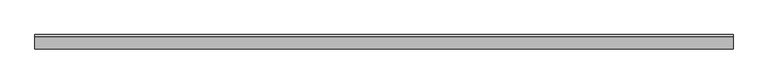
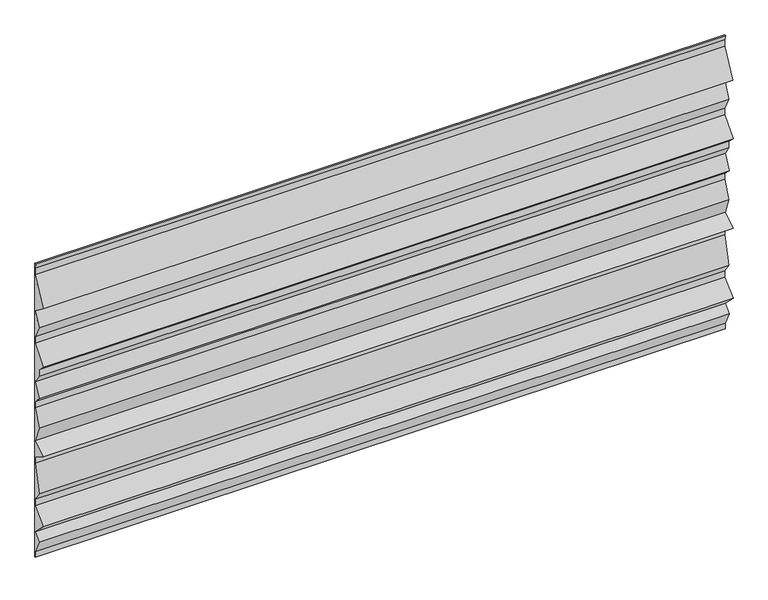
"""IFC4 building model written with IfcOpenShell, lengths in millimetres: plate geometry, ATELIERS 3S_GLACE PISSAILLAS 1000_HORIZONTAL : AZURO."""

import ifcopenshell
import ifcopenshell.guid

model = None  # the IFC model being written
_history = None  # IfcOwnerHistory: only IFC2X3 demands one
_inside = {}  # id of a spatial element -> (the spatial element, [elements in it])
_under = {}  # id of a project, library or spatial element -> (it, [spatial elements below it])
_declared = {}  # id of a project -> (the project, [libraries it declares])
_typed = {}  # id of a type object -> (the type object, [elements of that type])
_made_of = {}  # id of a material, layer set ... -> (it, [elements and type objects made of it])


def new_model(schema):
    """Start an empty IFC model of exactly this schema.

    Asked for "IFC4X3", IfcOpenShell would pick the latest addendum, in which some entities
    have other attributes; the version numbers below select the first issue.
    IFC2X3 requires an IfcOwnerHistory on every rooted entity: one is made here for all.
    """
    global model, _history
    if schema == "IFC4X3":
        model = ifcopenshell.file(schema_version=(4, 3, 0, 0))
    else:
        model = ifcopenshell.file(schema=schema)
    _inside.clear()
    _under.clear()
    _declared.clear()
    _typed.clear()
    _made_of.clear()
    _history = None
    if model.schema == "IFC2X3":
        org = make("IfcOrganization", Name="unknown")
        user = make(
            "IfcPersonAndOrganization",
            ThePerson=make("IfcPerson", FamilyName="unknown"),
            TheOrganization=org,
        )
        app = make(
            "IfcApplication",
            ApplicationDeveloper=org,
            Version="unknown",
            ApplicationFullName="unknown",
            ApplicationIdentifier="unknown",
        )
        _history = make(
            "IfcOwnerHistory",
            OwningUser=user,
            OwningApplication=app,
            ChangeAction="ADDED",
            CreationDate=0,
        )
    return model


def make(cls, **values):
    """One entity of the class cls with the attributes given. An attribute that is None is left unset."""
    return model.create_entity(
        cls, **{name: value for name, value in values.items() if value is not None}
    )


def rooted(cls, **values):
    """An entity with a GlobalId (a new one), such as an element, a storey or a relation."""
    return make(cls, GlobalId=ifcopenshell.guid.new(), OwnerHistory=_history, **values)


def si_unit(unit_type, name, prefix=None):
    """IfcSIUnit, for example si_unit("LENGTHUNIT", "METRE", prefix="MILLI")."""
    return make("IfcSIUnit", UnitType=unit_type, Prefix=prefix, Name=name)


def assignment(units):
    """IfcUnitAssignment: the units of a project."""
    return None if units is None else make("IfcUnitAssignment", Units=units)


def point(xyz):
    """IfcCartesianPoint."""
    return None if xyz is None else make("IfcCartesianPoint", Coordinates=xyz)


def direction(xyz):
    """IfcDirection."""
    return None if xyz is None else make("IfcDirection", DirectionRatios=xyz)


def frame(location, z_axis=None, x_axis=None):
    """IfcAxis2Placement3D, a coordinate frame: its origin and axes. An axis left out is left unset."""
    return make(
        "IfcAxis2Placement3D",
        Location=point(location),
        Axis=direction(z_axis),
        RefDirection=direction(x_axis),
    )


def origin():
    """The frame at (0, 0, 0) with its axes left unset."""
    return frame((0.0, 0.0, 0.0))


def place(relative_to, where):
    """IfcLocalPlacement: puts the frame where relative to a parent placement (None: the world)."""
    return make(
        "IfcLocalPlacement", PlacementRelTo=relative_to, RelativePlacement=where
    )


def context(
    kind, dimensions, precision=None, world=None, true_north=None, identifier=None
):
    """IfcGeometricRepresentationContext, for example the 3D "Model" context."""
    return make(
        "IfcGeometricRepresentationContext",
        ContextIdentifier=identifier,
        ContextType=kind,
        CoordinateSpaceDimension=dimensions,
        Precision=precision,
        WorldCoordinateSystem=world,
        TrueNorth=true_north,
    )


def project(units=None, contexts=None):
    """IfcProject with its units and contexts."""
    return rooted(
        "IfcProject",
        Name="project",
        RepresentationContexts=contexts,
        UnitsInContext=assignment(units),
    )


def spatial(cls, under=None, at=None, **own):
    """A site, building, storey or space (cls), placed at a placement, below another one or the project."""
    s = rooted(cls, ObjectPlacement=at, **own)
    if under is not None:
        _under.setdefault(under.id(), (under, []))[1].append(s)
    return s


def polyline(points):
    """IfcPolyline through the points."""
    return make("IfcPolyline", Points=[point(p) for p in points])


def outline(outer, holes=None, kind="AREA"):
    """IfcArbitraryClosedProfileDef: a profile drawn as a closed curve; with holes, ...WithVoids."""
    if holes is None:
        return make("IfcArbitraryClosedProfileDef", ProfileType=kind, OuterCurve=outer)
    return make(
        "IfcArbitraryProfileDefWithVoids",
        ProfileType=kind,
        OuterCurve=outer,
        InnerCurves=holes,
    )


def extrude(swept, where, along, depth):
    """IfcExtrudedAreaSolid: the profile swept, set in the frame where, extruded along a direction by depth."""
    return make(
        "IfcExtrudedAreaSolid",
        SweptArea=swept,
        Position=where,
        ExtrudedDirection=direction(along),
        Depth=depth,
    )


def shape(context_of_items, identifier, shape_type, items):
    """IfcShapeRepresentation: the items that make up one representation, for example the "Body"."""
    return make(
        "IfcShapeRepresentation",
        ContextOfItems=context_of_items,
        RepresentationIdentifier=identifier,
        RepresentationType=shape_type,
        Items=items,
    )


def source(mapping_origin, context_of_items, identifier, shape_type, items):
    """IfcRepresentationMap: a shape defined once, which mapped items show again and again."""
    return make(
        "IfcRepresentationMap",
        MappingOrigin=mapping_origin,
        MappedRepresentation=shape(context_of_items, identifier, shape_type, items),
    )


def transform(
    local_origin,
    x_axis=None,
    y_axis=None,
    z_axis=None,
    scale=None,
    scale2=None,
    scale3=None,
    uniform=True,
):
    """IfcCartesianTransformationOperator3D, or its non-uniform kind. x_axis, y_axis, z_axis: its Axis1, 2, 3."""
    if uniform:
        return make(
            "IfcCartesianTransformationOperator3D",
            Axis1=direction(x_axis),
            Axis2=direction(y_axis),
            LocalOrigin=point(local_origin),
            Scale=scale,
            Axis3=direction(z_axis),
        )
    return make(
        "IfcCartesianTransformationOperator3DnonUniform",
        Axis1=direction(x_axis),
        Axis2=direction(y_axis),
        LocalOrigin=point(local_origin),
        Scale=scale,
        Axis3=direction(z_axis),
        Scale2=scale2,
        Scale3=scale3,
    )


def mapped(mapping_source, mapping_target):
    """IfcMappedItem: shows the shape of a source again, moved by a transform."""
    return make(
        "IfcMappedItem", MappingSource=mapping_source, MappingTarget=mapping_target
    )


def made_of(thing, what):
    """Note that an element or type object is made of a material, layer set ...; save() writes the relation."""
    if what is not None:
        _made_of.setdefault(what.id(), (what, []))[1].append(thing)
    return thing


def element(
    cls,
    number,
    at=None,
    inside=None,
    cuts=None,
    type_object=None,
    material=None,
    context=None,
    identifier="Body",
    shape_type=None,
    held_by="IfcProductDefinitionShape",
    body=None,
    shapes=None,
    **own,
):
    """One element of the class cls, such as IfcWall. Its Tag is "e" and its number.

    at: its placement. inside: the storey or other place that contains it. cuts: it is an
    opening in that element (IfcRelVoidsElement). A single representation is given by context,
    identifier, shape_type and body (its items); several are given by shapes. held_by: the class
    of the entity that holds the representations. save() writes the other relations.
    """
    e = rooted(cls, Tag="e%d" % number, ObjectPlacement=at, **own)
    if body is not None:
        shapes = [shape(context, identifier, shape_type, body)]
    if shapes is not None:
        e.Representation = make(held_by, Representations=shapes)
    if inside is not None:
        _inside.setdefault(inside.id(), (inside, []))[1].append(e)
    if cuts is not None:
        rooted(
            "IfcRelVoidsElement", RelatingBuildingElement=cuts, RelatedOpeningElement=e
        )
    if type_object is not None:
        _typed.setdefault(type_object.id(), (type_object, []))[1].append(e)
    return made_of(e, material)


def aggregate(whole, parts):
    """IfcRelAggregates: a whole, such as a stair, and the parts it consists of."""
    return rooted("IfcRelAggregates", RelatingObject=whole, RelatedObjects=parts)


def save(model, path):
    """Write the relations noted so far, then the file.

    IfcRelAggregates (storeys below a building ...), IfcRelContainedInSpatialStructure (elements
    in a storey), IfcRelDefinesByType, IfcRelAssociatesMaterial and IfcRelDeclares: one each for
    every whole, place, type object, material and project.
    """
    for whole, parts in _under.values():
        aggregate(whole, parts)
    for where, things in _inside.values():
        rooted(
            "IfcRelContainedInSpatialStructure",
            RelatedElements=things,
            RelatingStructure=where,
        )
    for kind, things in _typed.values():
        rooted("IfcRelDefinesByType", RelatedObjects=things, RelatingType=kind)
    for what, things in _made_of.values():
        rooted("IfcRelAssociatesMaterial", RelatedObjects=things, RelatingMaterial=what)
    for by, libraries in _declared.values():
        rooted("IfcRelDeclares", RelatingContext=by, RelatedDefinitions=libraries)
    model.write(path)


def plate_58300a72(model_context):
    return source(origin(), model_context, "Body", "SweptSolid", [
        extrude(outline(polyline([(-0.8, 0.0), (-0.8, 16.9163895), (-20.9135393, 57.5498441), (-1.0660999, 76.9962838), (-41.0606602, 116.9908441), (-0.75, 157.3015043), (-0.75, 176.7637624), (-20.8080747, 206.8508744), (-0.75, 287.0831733), (-0.75, 306.5751584), (-41.4150972, 331.9908441), (-0.9292392, 357.2945053), (-20.8077747, 406.9908441), (-0.75, 457.1352809), (-0.75, 476.6801839), (-20.9125704, 496.8427543), (-0.8654665, 536.9369621), (-20.75, 566.7637624), (-20.75, 586.6801839), (-41.009736, 606.9399199), (-0.75, 656.2580964), (-0.75, 675.8137931), (-20.8385255, 715.9908441), (-0.9507458, 755.7664035), (-40.9507458, 785.7664035), (-0.75, 866.1678951), (-0.75, 885.8862432), (-4.7649271, 900.0), (0.0, 900.0), (0.0, 0.0), (-0.8, 0.0)])), frame((-1000.637242, 0.0, 0.0), z_axis=(1.0, 0.0, 0.0), x_axis=(0.0, 1.0, 0.0)), (0.0, 0.0, 1.0), 2001.2744839),
    ])


if __name__ == "__main__":
    model = new_model("IFC4")
    model_context = context("Model", 3, world=origin())
    ifc_project = project(units=[si_unit("LENGTHUNIT", "METRE", prefix="MILLI")], contexts=[model_context])
    site = spatial("IfcSite", under=ifc_project)
    building = spatial("IfcBuilding", under=site)
    placement = place(None, origin())
    plate_shape = plate_58300a72(model_context)
    element("IfcPlate", 1, ObjectType="ATELIERS 3S_GLACE PISSAILLAS 1000_HORIZONTAL : AZURO", at=placement, inside=building, context=model_context, shape_type="MappedRepresentation", body=[
        mapped(plate_shape, transform((0.0, 0.0, 0.0), x_axis=(1.0, 0.0, 0.0), y_axis=(0.0, 1.0, 0.0), z_axis=(0.0, 0.0, 1.0))),
    ])
    save(model, "model.ifc")
